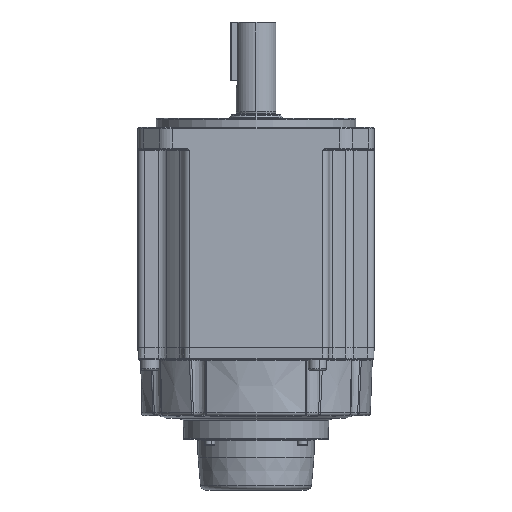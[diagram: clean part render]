
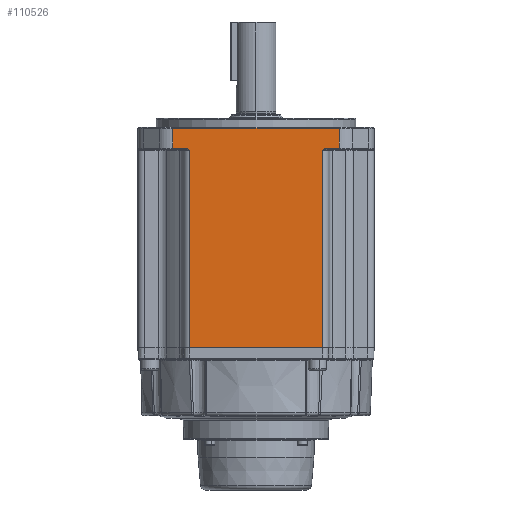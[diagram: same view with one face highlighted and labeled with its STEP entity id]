
A CAD part, front view. The second image highlights one B-rep face of the part: STEP entity #110526.
In plain terms, the highlighted planar face has unit normal (0, -1, 0).
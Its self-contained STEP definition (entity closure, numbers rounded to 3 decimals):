
#887 = EDGE_CURVE ( 'NONE', #33718, #102127, #58018, .T. ) ;
#6063 = CARTESIAN_POINT ( 'NONE',  ( 39.084, -65., -16.5 ) ) ;
#6081 = DIRECTION ( 'NONE',  ( 1., 0., 0. ) ) ;
#7049 = CARTESIAN_POINT ( 'NONE',  ( 36.401, -65., -128.7 ) ) ;
#7123 = CARTESIAN_POINT ( 'NONE',  ( -45.858, -65., -312.548 ) ) ;
#7899 = DIRECTION ( 'NONE',  ( 0., 0., 1. ) ) ;
#9604 = VECTOR ( 'NONE', #100028, 1000. ) ;
#10033 = CARTESIAN_POINT ( 'NONE',  ( 45.858, -65., -312.548 ) ) ;
#12295 = EDGE_CURVE ( 'NONE', #37273, #33718, #28123, .T. ) ;
#12663 = DIRECTION ( 'NONE',  ( 0., -1., 0. ) ) ;
#14268 = CARTESIAN_POINT ( 'NONE',  ( 50., -65., -16.5 ) ) ;
#15680 = DIRECTION ( 'NONE',  ( 1., 0., 0. ) ) ;
#16525 = CARTESIAN_POINT ( 'NONE',  ( 38.133, -65., -16.656 ) ) ;
#17084 = CARTESIAN_POINT ( 'NONE',  ( 37.239, -65., -17.023 ) ) ;
#18297 = VERTEX_POINT ( 'NONE', #24008 ) ;
#18538 = CARTESIAN_POINT ( 'NONE',  ( -37.903, -65., -16.739 ) ) ;
#21390 = ORIENTED_EDGE ( 'NONE', *, *, #69257, .T. ) ;
#21968 = CARTESIAN_POINT ( 'NONE',  ( -45.858, -65., -5.5 ) ) ;
#24008 = CARTESIAN_POINT ( 'NONE',  ( -39.084, -65., -16.5 ) ) ;
#24175 = CARTESIAN_POINT ( 'NONE',  ( 38.601, -65., -16.537 ) ) ;
#25171 = DIRECTION ( 'NONE',  ( 0., 0., 1. ) ) ;
#26833 = CARTESIAN_POINT ( 'NONE',  ( 39.084, -65., -16.5 ) ) ;
#26896 = ORIENTED_EDGE ( 'NONE', *, *, #39433, .T. ) ;
#27179 = VECTOR ( 'NONE', #32815, 1000. ) ;
#28123 = LINE ( 'NONE', #10033, #47574 ) ;
#29530 = ORIENTED_EDGE ( 'NONE', *, *, #887, .T. ) ;
#32815 = DIRECTION ( 'NONE',  ( 0., 0., -1. ) ) ;
#33718 = VERTEX_POINT ( 'NONE', #71354 ) ;
#34365 = VERTEX_POINT ( 'NONE', #45887 ) ;
#36612 = CARTESIAN_POINT ( 'NONE',  ( -38.133, -65., -16.656 ) ) ;
#37202 = CARTESIAN_POINT ( 'NONE',  ( 50., -65., -312.548 ) ) ;
#37273 = VERTEX_POINT ( 'NONE', #82091 ) ;
#39433 = EDGE_CURVE ( 'NONE', #48864, #74623, #87344, .T. ) ;
#40295 = ORIENTED_EDGE ( 'NONE', *, *, #59884, .T. ) ;
#43588 = VECTOR ( 'NONE', #25171, 1000. ) ;
#44020 = CARTESIAN_POINT ( 'NONE',  ( -36.401, -65., -128.7 ) ) ;
#45641 = VECTOR ( 'NONE', #6081, 1000. ) ;
#45887 = CARTESIAN_POINT ( 'NONE',  ( -36.401, -65., -17.5 ) ) ;
#47574 = VECTOR ( 'NONE', #53155, 1000. ) ;
#48864 = VERTEX_POINT ( 'NONE', #67869 ) ;
#51330 = LINE ( 'NONE', #7049, #43588 ) ;
#51410 = EDGE_LOOP ( 'NONE', ( #93166, #95291, #75497, #26896, #40295, #95746, #29530, #68007, #21390, #104177 ) ) ;
#53155 = DIRECTION ( 'NONE',  ( 0., 0., 1. ) ) ;
#53392 = VERTEX_POINT ( 'NONE', #73178 ) ;
#54048 = CARTESIAN_POINT ( 'NONE',  ( -36.401, -65., -17.5 ) ) ;
#56341 = FACE_OUTER_BOUND ( 'NONE', #51410, .T. ) ;
#58018 = LINE ( 'NONE', #21968, #9604 ) ;
#59337 = LINE ( 'NONE', #93778, #104856 ) ;
#59884 = EDGE_CURVE ( 'NONE', #74623, #37273, #110365, .T. ) ;
#62764 = CARTESIAN_POINT ( 'NONE',  ( -36.82, -65., -17.262 ) ) ;
#64398 = VECTOR ( 'NONE', #7899, 1000. ) ;
#65150 = CARTESIAN_POINT ( 'NONE',  ( -45.858, -65., -16.5 ) ) ;
#65632 = PLANE ( 'NONE',  #91543 ) ;
#67869 = CARTESIAN_POINT ( 'NONE',  ( 36.401, -65., -17.5 ) ) ;
#68007 = ORIENTED_EDGE ( 'NONE', *, *, #72609, .T. ) ;
#68795 = EDGE_CURVE ( 'NONE', #53392, #48864, #51330, .T. ) ;
#69257 = EDGE_CURVE ( 'NONE', #95455, #18297, #77740, .T. ) ;
#71354 = CARTESIAN_POINT ( 'NONE',  ( 45.858, -65., -5.5 ) ) ;
#72609 = EDGE_CURVE ( 'NONE', #102127, #95455, #91681, .T. ) ;
#73178 = CARTESIAN_POINT ( 'NONE',  ( 36.401, -65., -126.1 ) ) ;
#74623 = VERTEX_POINT ( 'NONE', #26833 ) ;
#75497 = ORIENTED_EDGE ( 'NONE', *, *, #68795, .T. ) ;
#77740 = LINE ( 'NONE', #103353, #45641 ) ;
#78409 = LINE ( 'NONE', #44020, #64398 ) ;
#78848 = CARTESIAN_POINT ( 'NONE',  ( 36.819, -65., -17.262 ) ) ;
#79135 = CARTESIAN_POINT ( 'NONE',  ( -39.084, -65., -16.5 ) ) ;
#81440 = CARTESIAN_POINT ( 'NONE',  ( -38.601, -65., -16.537 ) ) ;
#82091 = CARTESIAN_POINT ( 'NONE',  ( 45.858, -65., -16.5 ) ) ;
#84217 = DIRECTION ( 'NONE',  ( 1., 0., 0. ) ) ;
#85305 = CARTESIAN_POINT ( 'NONE',  ( -45.858, -65., -5.5 ) ) ;
#85868 = CARTESIAN_POINT ( 'NONE',  ( 38.84, -65., -16.5 ) ) ;
#87344 = B_SPLINE_CURVE_WITH_KNOTS ( 'NONE', 3,
 ( #87608, #78848, #17084, #96339, #16525, #24175, #85868, #6063 ),
 .UNSPECIFIED., .F., .F.,
 ( 4, 2, 2, 4 ),
 ( 0., 0.001, 0.002, 0.003 ),
 .UNSPECIFIED. ) ;
#87608 = CARTESIAN_POINT ( 'NONE',  ( 36.401, -65., -17.5 ) ) ;
#91543 = AXIS2_PLACEMENT_3D ( 'NONE', #37202, #12663, #100058 ) ;
#91681 = LINE ( 'NONE', #7123, #27179 ) ;
#91901 = EDGE_CURVE ( 'NONE', #18297, #34365, #103591, .T. ) ;
#92556 = EDGE_CURVE ( 'NONE', #112126, #53392, #59337, .T. ) ;
#93166 = ORIENTED_EDGE ( 'NONE', *, *, #105641, .F. ) ;
#93778 = CARTESIAN_POINT ( 'NONE',  ( 50., -65., -126.1 ) ) ;
#95291 = ORIENTED_EDGE ( 'NONE', *, *, #92556, .T. ) ;
#95455 = VERTEX_POINT ( 'NONE', #65150 ) ;
#95746 = ORIENTED_EDGE ( 'NONE', *, *, #12295, .T. ) ;
#96339 = CARTESIAN_POINT ( 'NONE',  ( 37.903, -65., -16.739 ) ) ;
#97366 = VECTOR ( 'NONE', #84217, 1000. ) ;
#99479 = CARTESIAN_POINT ( 'NONE',  ( -37.239, -65., -17.023 ) ) ;
#100028 = DIRECTION ( 'NONE',  ( -1., 0., 0. ) ) ;
#100058 = DIRECTION ( 'NONE',  ( 1., 0., 0. ) ) ;
#102127 = VERTEX_POINT ( 'NONE', #85305 ) ;
#103353 = CARTESIAN_POINT ( 'NONE',  ( 50., -65., -16.5 ) ) ;
#103591 = B_SPLINE_CURVE_WITH_KNOTS ( 'NONE', 3,
 ( #79135, #114618, #81440, #36612, #18538, #99479, #62764, #54048 ),
 .UNSPECIFIED., .F., .F.,
 ( 4, 2, 2, 4 ),
 ( 0., 0.001, 0.001, 0.003 ),
 .UNSPECIFIED. ) ;
#103812 = CARTESIAN_POINT ( 'NONE',  ( -36.401, -65., -126.1 ) ) ;
#104177 = ORIENTED_EDGE ( 'NONE', *, *, #91901, .T. ) ;
#104856 = VECTOR ( 'NONE', #15680, 1000. ) ;
#105641 = EDGE_CURVE ( 'NONE', #112126, #34365, #78409, .T. ) ;
#110365 = LINE ( 'NONE', #14268, #97366 ) ;
#110526 = ADVANCED_FACE ( 'NONE', ( #56341 ), #65632, .T. ) ;
#112126 = VERTEX_POINT ( 'NONE', #103812 ) ;
#114618 = CARTESIAN_POINT ( 'NONE',  ( -38.84, -65., -16.5 ) ) ;
